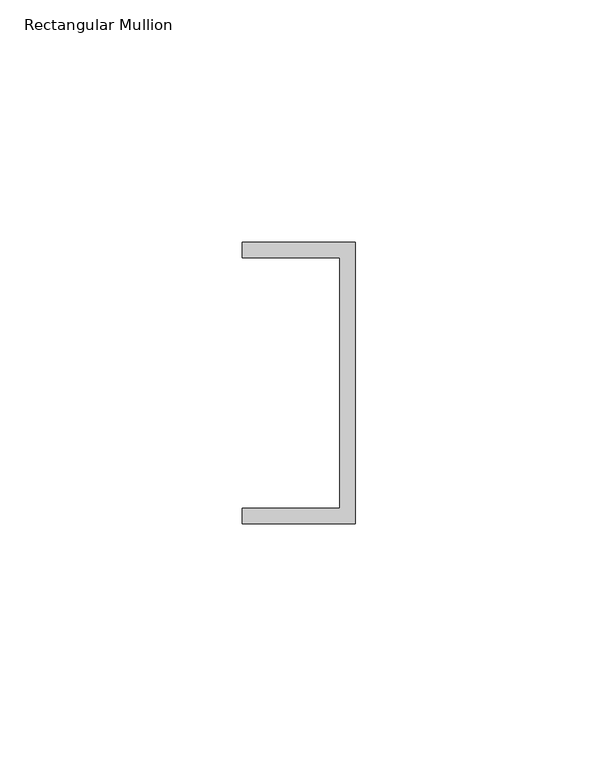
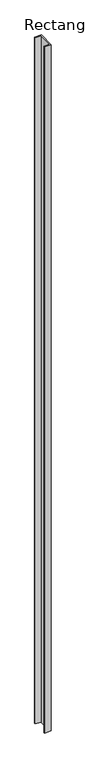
"""IFC4 building model written with IfcOpenShell, lengths in millimetres: member geometry, Rectangular Mullion : Frame-Teknion-Altos-Base_Channel."""

import ifcopenshell
import ifcopenshell.guid

model = None  # the IFC model being written
_history = None  # IfcOwnerHistory: only IFC2X3 demands one
_inside = {}  # id of a spatial element -> (the spatial element, [elements in it])
_under = {}  # id of a project, library or spatial element -> (it, [spatial elements below it])
_declared = {}  # id of a project -> (the project, [libraries it declares])
_typed = {}  # id of a type object -> (the type object, [elements of that type])
_made_of = {}  # id of a material, layer set ... -> (it, [elements and type objects made of it])


def new_model(schema):
    """Start an empty IFC model of exactly this schema.

    Asked for "IFC4X3", IfcOpenShell would pick the latest addendum, in which some entities
    have other attributes; the version numbers below select the first issue.
    IFC2X3 requires an IfcOwnerHistory on every rooted entity: one is made here for all.
    """
    global model, _history
    if schema == "IFC4X3":
        model = ifcopenshell.file(schema_version=(4, 3, 0, 0))
    else:
        model = ifcopenshell.file(schema=schema)
    _inside.clear()
    _under.clear()
    _declared.clear()
    _typed.clear()
    _made_of.clear()
    _history = None
    if model.schema == "IFC2X3":
        org = make("IfcOrganization", Name="unknown")
        user = make(
            "IfcPersonAndOrganization",
            ThePerson=make("IfcPerson", FamilyName="unknown"),
            TheOrganization=org,
        )
        app = make(
            "IfcApplication",
            ApplicationDeveloper=org,
            Version="unknown",
            ApplicationFullName="unknown",
            ApplicationIdentifier="unknown",
        )
        _history = make(
            "IfcOwnerHistory",
            OwningUser=user,
            OwningApplication=app,
            ChangeAction="ADDED",
            CreationDate=0,
        )
    return model


def make(cls, **values):
    """One entity of the class cls with the attributes given. An attribute that is None is left unset."""
    return model.create_entity(
        cls, **{name: value for name, value in values.items() if value is not None}
    )


def rooted(cls, **values):
    """An entity with a GlobalId (a new one), such as an element, a storey or a relation."""
    return make(cls, GlobalId=ifcopenshell.guid.new(), OwnerHistory=_history, **values)


def si_unit(unit_type, name, prefix=None):
    """IfcSIUnit, for example si_unit("LENGTHUNIT", "METRE", prefix="MILLI")."""
    return make("IfcSIUnit", UnitType=unit_type, Prefix=prefix, Name=name)


def assignment(units):
    """IfcUnitAssignment: the units of a project."""
    return None if units is None else make("IfcUnitAssignment", Units=units)


def point(xyz):
    """IfcCartesianPoint."""
    return None if xyz is None else make("IfcCartesianPoint", Coordinates=xyz)


def direction(xyz):
    """IfcDirection."""
    return None if xyz is None else make("IfcDirection", DirectionRatios=xyz)


def frame(location, z_axis=None, x_axis=None):
    """IfcAxis2Placement3D, a coordinate frame: its origin and axes. An axis left out is left unset."""
    return make(
        "IfcAxis2Placement3D",
        Location=point(location),
        Axis=direction(z_axis),
        RefDirection=direction(x_axis),
    )


def origin():
    """The frame at (0, 0, 0) with its axes left unset."""
    return frame((0.0, 0.0, 0.0))


def place(relative_to, where):
    """IfcLocalPlacement: puts the frame where relative to a parent placement (None: the world)."""
    return make(
        "IfcLocalPlacement", PlacementRelTo=relative_to, RelativePlacement=where
    )


def context(
    kind, dimensions, precision=None, world=None, true_north=None, identifier=None
):
    """IfcGeometricRepresentationContext, for example the 3D "Model" context."""
    return make(
        "IfcGeometricRepresentationContext",
        ContextIdentifier=identifier,
        ContextType=kind,
        CoordinateSpaceDimension=dimensions,
        Precision=precision,
        WorldCoordinateSystem=world,
        TrueNorth=true_north,
    )


def project(units=None, contexts=None):
    """IfcProject with its units and contexts."""
    return rooted(
        "IfcProject",
        Name="project",
        RepresentationContexts=contexts,
        UnitsInContext=assignment(units),
    )


def spatial(cls, under=None, at=None, **own):
    """A site, building, storey or space (cls), placed at a placement, below another one or the project."""
    s = rooted(cls, ObjectPlacement=at, **own)
    if under is not None:
        _under.setdefault(under.id(), (under, []))[1].append(s)
    return s


def polyline(points):
    """IfcPolyline through the points."""
    return make("IfcPolyline", Points=[point(p) for p in points])


def outline(outer, holes=None, kind="AREA"):
    """IfcArbitraryClosedProfileDef: a profile drawn as a closed curve; with holes, ...WithVoids."""
    if holes is None:
        return make("IfcArbitraryClosedProfileDef", ProfileType=kind, OuterCurve=outer)
    return make(
        "IfcArbitraryProfileDefWithVoids",
        ProfileType=kind,
        OuterCurve=outer,
        InnerCurves=holes,
    )


def extrude(swept, where, along, depth):
    """IfcExtrudedAreaSolid: the profile swept, set in the frame where, extruded along a direction by depth."""
    return make(
        "IfcExtrudedAreaSolid",
        SweptArea=swept,
        Position=where,
        ExtrudedDirection=direction(along),
        Depth=depth,
    )


def shape(context_of_items, identifier, shape_type, items):
    """IfcShapeRepresentation: the items that make up one representation, for example the "Body"."""
    return make(
        "IfcShapeRepresentation",
        ContextOfItems=context_of_items,
        RepresentationIdentifier=identifier,
        RepresentationType=shape_type,
        Items=items,
    )


def source(mapping_origin, context_of_items, identifier, shape_type, items):
    """IfcRepresentationMap: a shape defined once, which mapped items show again and again."""
    return make(
        "IfcRepresentationMap",
        MappingOrigin=mapping_origin,
        MappedRepresentation=shape(context_of_items, identifier, shape_type, items),
    )


def transform(
    local_origin,
    x_axis=None,
    y_axis=None,
    z_axis=None,
    scale=None,
    scale2=None,
    scale3=None,
    uniform=True,
):
    """IfcCartesianTransformationOperator3D, or its non-uniform kind. x_axis, y_axis, z_axis: its Axis1, 2, 3."""
    if uniform:
        return make(
            "IfcCartesianTransformationOperator3D",
            Axis1=direction(x_axis),
            Axis2=direction(y_axis),
            LocalOrigin=point(local_origin),
            Scale=scale,
            Axis3=direction(z_axis),
        )
    return make(
        "IfcCartesianTransformationOperator3DnonUniform",
        Axis1=direction(x_axis),
        Axis2=direction(y_axis),
        LocalOrigin=point(local_origin),
        Scale=scale,
        Axis3=direction(z_axis),
        Scale2=scale2,
        Scale3=scale3,
    )


def mapped(mapping_source, mapping_target):
    """IfcMappedItem: shows the shape of a source again, moved by a transform."""
    return make(
        "IfcMappedItem", MappingSource=mapping_source, MappingTarget=mapping_target
    )


def made_of(thing, what):
    """Note that an element or type object is made of a material, layer set ...; save() writes the relation."""
    if what is not None:
        _made_of.setdefault(what.id(), (what, []))[1].append(thing)
    return thing


def element(
    cls,
    number,
    at=None,
    inside=None,
    cuts=None,
    type_object=None,
    material=None,
    context=None,
    identifier="Body",
    shape_type=None,
    held_by="IfcProductDefinitionShape",
    body=None,
    shapes=None,
    **own,
):
    """One element of the class cls, such as IfcWall. Its Tag is "e" and its number.

    at: its placement. inside: the storey or other place that contains it. cuts: it is an
    opening in that element (IfcRelVoidsElement). A single representation is given by context,
    identifier, shape_type and body (its items); several are given by shapes. held_by: the class
    of the entity that holds the representations. save() writes the other relations.
    """
    e = rooted(cls, Tag="e%d" % number, ObjectPlacement=at, **own)
    if body is not None:
        shapes = [shape(context, identifier, shape_type, body)]
    if shapes is not None:
        e.Representation = make(held_by, Representations=shapes)
    if inside is not None:
        _inside.setdefault(inside.id(), (inside, []))[1].append(e)
    if cuts is not None:
        rooted(
            "IfcRelVoidsElement", RelatingBuildingElement=cuts, RelatedOpeningElement=e
        )
    if type_object is not None:
        _typed.setdefault(type_object.id(), (type_object, []))[1].append(e)
    return made_of(e, material)


def aggregate(whole, parts):
    """IfcRelAggregates: a whole, such as a stair, and the parts it consists of."""
    return rooted("IfcRelAggregates", RelatingObject=whole, RelatedObjects=parts)


def save(model, path):
    """Write the relations noted so far, then the file.

    IfcRelAggregates (storeys below a building ...), IfcRelContainedInSpatialStructure (elements
    in a storey), IfcRelDefinesByType, IfcRelAssociatesMaterial and IfcRelDeclares: one each for
    every whole, place, type object, material and project.
    """
    for whole, parts in _under.values():
        aggregate(whole, parts)
    for where, things in _inside.values():
        rooted(
            "IfcRelContainedInSpatialStructure",
            RelatedElements=things,
            RelatingStructure=where,
        )
    for kind, things in _typed.values():
        rooted("IfcRelDefinesByType", RelatedObjects=things, RelatingType=kind)
    for what, things in _made_of.values():
        rooted("IfcRelAssociatesMaterial", RelatedObjects=things, RelatingMaterial=what)
    for by, libraries in _declared.values():
        rooted("IfcRelDeclares", RelatingContext=by, RelatedDefinitions=libraries)
    model.write(path)


def rectangular_mullion_816eeb7a(model_context):
    return source(origin(), model_context, "Body", "SweptSolid", [
        extrude(outline(polyline([(0.0, 29.0214844), (0.0, -29.0214844), (-23.3164063, -29.0214844), (-23.3164063, -25.8464844), (-3.175, -25.8464844), (-3.175, 25.8464844), (-23.3164063, 25.8464844), (-23.3164063, 29.0214844), (0.0, 29.0214844)])), frame((0.0, 0.0, -2498.0304687), z_axis=(0.0, 0.0, 1.0), x_axis=(1.0, 0.0, 0.0)), (0.0, 0.0, 1.0), 2498.0304687),
    ])


if __name__ == "__main__":
    model = new_model("IFC4")
    model_context = context("Model", 3, world=origin())
    ifc_project = project(units=[si_unit("LENGTHUNIT", "METRE", prefix="MILLI")], contexts=[model_context])
    site = spatial("IfcSite", under=ifc_project)
    building = spatial("IfcBuilding", under=site)
    placement = place(None, origin())
    rectangular_mullion_shape = rectangular_mullion_816eeb7a(model_context)
    element("IfcMember", 1, ObjectType="Rectangular Mullion : Frame-Teknion-Altos-Base_Channel", at=placement, inside=building, context=model_context, shape_type="MappedRepresentation", body=[
        mapped(rectangular_mullion_shape, transform((0.0, 0.0, 0.0), x_axis=(1.0, 0.0, 0.0), y_axis=(0.0, 1.0, 0.0), z_axis=(0.0, 0.0, 1.0))),
    ])
    save(model, "model.ifc")
